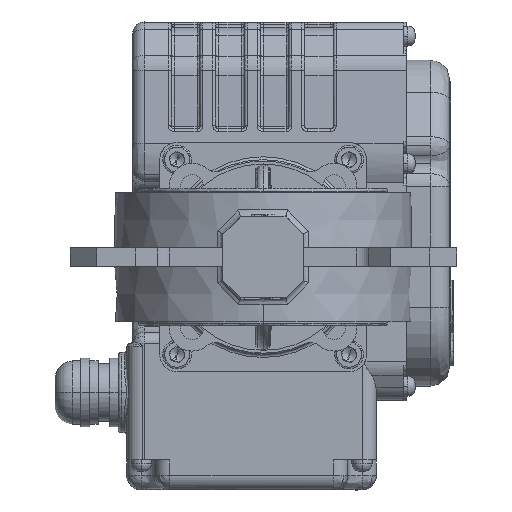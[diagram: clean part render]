
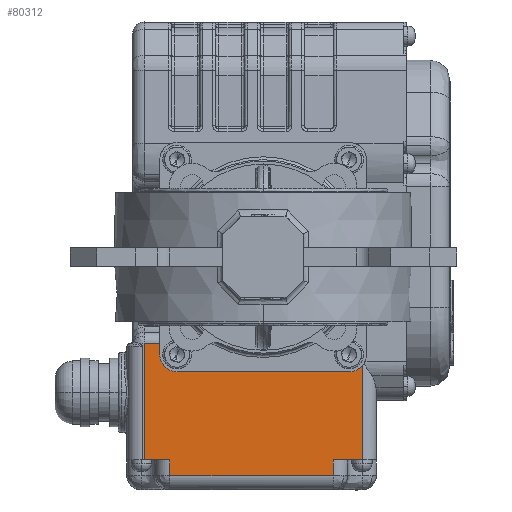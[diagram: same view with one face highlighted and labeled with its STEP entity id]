
A CAD part, front view. The second image highlights one B-rep face of the part: STEP entity #80312.
In plain terms, the highlighted planar face has unit normal (0, -1, 0).
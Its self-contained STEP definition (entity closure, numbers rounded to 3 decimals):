
#95 = EDGE_CURVE ( 'NONE', #11226, #43372, #18630, .T. ) ;
#1470 = DIRECTION ( 'NONE',  ( 0., 0., -1. ) ) ;
#2596 = CARTESIAN_POINT ( 'NONE',  ( -41.5, 193.5, -30.062 ) ) ;
#2698 = VECTOR ( 'NONE', #25830, 1000. ) ;
#3017 = VERTEX_POINT ( 'NONE', #35798 ) ;
#5108 = DIRECTION ( 'NONE',  ( 0., 0., 1. ) ) ;
#7254 = EDGE_CURVE ( 'NONE', #91211, #71942, #14022, .T. ) ;
#7509 = AXIS2_PLACEMENT_3D ( 'NONE', #84608, #68820, #77817 ) ;
#7967 = CARTESIAN_POINT ( 'NONE',  ( -30., 193.5, -40. ) ) ;
#9749 = CARTESIAN_POINT ( 'NONE',  ( 43., 193.5, -70.7 ) ) ;
#11226 = VERTEX_POINT ( 'NONE', #51688 ) ;
#11357 = ORIENTED_EDGE ( 'NONE', *, *, #106868, .T. ) ;
#11612 = EDGE_CURVE ( 'NONE', #94587, #56845, #60381, .T. ) ;
#14022 = LINE ( 'NONE', #65366, #33830 ) ;
#15612 = AXIS2_PLACEMENT_3D ( 'NONE', #18704, #33836, #43300 ) ;
#16410 = CARTESIAN_POINT ( 'NONE',  ( -36., 193.5, 34. ) ) ;
#18208 = DIRECTION ( 'NONE',  ( 0., 1., 0. ) ) ;
#18620 = ORIENTED_EDGE ( 'NONE', *, *, #83137, .T. ) ;
#18630 = LINE ( 'NONE', #16410, #98784 ) ;
#18698 = CARTESIAN_POINT ( 'NONE',  ( -41.5, 193.5, -70.7 ) ) ;
#18704 = CARTESIAN_POINT ( 'NONE',  ( 43., 193.5, 26. ) ) ;
#19038 = ORIENTED_EDGE ( 'NONE', *, *, #67205, .T. ) ;
#19123 = VECTOR ( 'NONE', #36040, 1000. ) ;
#22713 = CARTESIAN_POINT ( 'NONE',  ( -32.5, 193.5, 26. ) ) ;
#24496 = VECTOR ( 'NONE', #84430, 1000. ) ;
#25565 = CARTESIAN_POINT ( 'NONE',  ( 164.887, 193.5, -30.062 ) ) ;
#25830 = DIRECTION ( 'NONE',  ( 0., 0., 1. ) ) ;
#26456 = DIRECTION ( 'NONE',  ( 0., 0., -1. ) ) ;
#26685 = LINE ( 'NONE', #25565, #50548 ) ;
#27368 = CARTESIAN_POINT ( 'NONE',  ( -36., 193.5, -34. ) ) ;
#31547 = EDGE_CURVE ( 'NONE', #3017, #38330, #93372, .T. ) ;
#33830 = VECTOR ( 'NONE', #5108, 1000. ) ;
#33836 = DIRECTION ( 'NONE',  ( 0., -1., 0. ) ) ;
#33846 = CARTESIAN_POINT ( 'NONE',  ( 24.5, 193.5, -76.2 ) ) ;
#35798 = CARTESIAN_POINT ( 'NONE',  ( 34.5, 193.5, -70.7 ) ) ;
#36040 = DIRECTION ( 'NONE',  ( 1., 0., 0. ) ) ;
#36319 = ORIENTED_EDGE ( 'NONE', *, *, #103776, .T. ) ;
#36594 = LINE ( 'NONE', #60043, #82235 ) ;
#37484 = EDGE_CURVE ( 'NONE', #67215, #11226, #26685, .T. ) ;
#38330 = VERTEX_POINT ( 'NONE', #99146 ) ;
#38701 = CARTESIAN_POINT ( 'NONE',  ( -32.5, 193.5, -70.7 ) ) ;
#39073 = ORIENTED_EDGE ( 'NONE', *, *, #97688, .T. ) ;
#39801 = ORIENTED_EDGE ( 'NONE', *, *, #97891, .T. ) ;
#39812 = CARTESIAN_POINT ( 'NONE',  ( 43., 193.5, -70.7 ) ) ;
#41251 = CARTESIAN_POINT ( 'NONE',  ( 24.5, 193.5, -70.7 ) ) ;
#41420 = ORIENTED_EDGE ( 'NONE', *, *, #7254, .T. ) ;
#43300 = DIRECTION ( 'NONE',  ( 0., 0., -1. ) ) ;
#43372 = VERTEX_POINT ( 'NONE', #27368 ) ;
#45062 = ORIENTED_EDGE ( 'NONE', *, *, #37484, .F. ) ;
#46759 = CIRCLE ( 'NONE', #7509, 6. ) ;
#50548 = VECTOR ( 'NONE', #52387, 1000. ) ;
#51680 = PLANE ( 'NONE',  #15612 ) ;
#51688 = CARTESIAN_POINT ( 'NONE',  ( -36., 193.5, -30.062 ) ) ;
#52343 = ORIENTED_EDGE ( 'NONE', *, *, #31547, .T. ) ;
#52387 = DIRECTION ( 'NONE',  ( 1., 0., 0. ) ) ;
#54438 = ORIENTED_EDGE ( 'NONE', *, *, #11612, .T. ) ;
#56845 = VERTEX_POINT ( 'NONE', #7967 ) ;
#58179 = DIRECTION ( 'NONE',  ( -1., 0., 0. ) ) ;
#59132 = VECTOR ( 'NONE', #108337, 1000. ) ;
#60043 = CARTESIAN_POINT ( 'NONE',  ( 43., 193.5, -76.2 ) ) ;
#60381 = LINE ( 'NONE', #94032, #91081 ) ;
#60502 = ORIENTED_EDGE ( 'NONE', *, *, #61922, .F. ) ;
#61922 = EDGE_CURVE ( 'NONE', #84487, #67215, #78434, .T. ) ;
#63378 = CARTESIAN_POINT ( 'NONE',  ( -30., 193.5, -34. ) ) ;
#65094 = VERTEX_POINT ( 'NONE', #95574 ) ;
#65366 = CARTESIAN_POINT ( 'NONE',  ( 24.5, 193.5, 26. ) ) ;
#67205 = EDGE_CURVE ( 'NONE', #56845, #43372, #108666, .T. ) ;
#67215 = VERTEX_POINT ( 'NONE', #2596 ) ;
#67503 = AXIS2_PLACEMENT_3D ( 'NONE', #63378, #18208, #1470 ) ;
#68820 = DIRECTION ( 'NONE',  ( 0., 1., 0. ) ) ;
#69527 = LINE ( 'NONE', #9749, #19123 ) ;
#71708 = VECTOR ( 'NONE', #99750, 1000. ) ;
#71942 = VERTEX_POINT ( 'NONE', #41251 ) ;
#77817 = DIRECTION ( 'NONE',  ( 0., 0., -1. ) ) ;
#78434 = LINE ( 'NONE', #85193, #2698 ) ;
#80312 = ADVANCED_FACE ( 'NONE', ( #86433 ), #51680, .T. ) ;
#82235 = VECTOR ( 'NONE', #86949, 1000. ) ;
#83137 = EDGE_CURVE ( 'NONE', #65094, #91211, #36594, .T. ) ;
#84133 = ORIENTED_EDGE ( 'NONE', *, *, #95, .F. ) ;
#84430 = DIRECTION ( 'NONE',  ( 0., 0., 1. ) ) ;
#84487 = VERTEX_POINT ( 'NONE', #18698 ) ;
#84608 = CARTESIAN_POINT ( 'NONE',  ( 30., 193.5, -34. ) ) ;
#85193 = CARTESIAN_POINT ( 'NONE',  ( -41.5, 193.5, -252.483 ) ) ;
#86433 = FACE_OUTER_BOUND ( 'NONE', #88280, .T. ) ;
#86949 = DIRECTION ( 'NONE',  ( 1., 0., 0. ) ) ;
#88280 = EDGE_LOOP ( 'NONE', ( #18620, #41420, #39073, #52343, #39801, #54438, #19038, #84133, #45062, #60502, #36319, #11357 ) ) ;
#91081 = VECTOR ( 'NONE', #58179, 1000. ) ;
#91211 = VERTEX_POINT ( 'NONE', #33846 ) ;
#93372 = LINE ( 'NONE', #100118, #24496 ) ;
#94032 = CARTESIAN_POINT ( 'NONE',  ( 43., 193.5, -40. ) ) ;
#94587 = VERTEX_POINT ( 'NONE', #97334 ) ;
#95574 = CARTESIAN_POINT ( 'NONE',  ( -32.5, 193.5, -76.2 ) ) ;
#96308 = VERTEX_POINT ( 'NONE', #38701 ) ;
#97334 = CARTESIAN_POINT ( 'NONE',  ( 30., 193.5, -40. ) ) ;
#97688 = EDGE_CURVE ( 'NONE', #71942, #3017, #108135, .T. ) ;
#97891 = EDGE_CURVE ( 'NONE', #38330, #94587, #46759, .T. ) ;
#98784 = VECTOR ( 'NONE', #26456, 1000. ) ;
#99146 = CARTESIAN_POINT ( 'NONE',  ( 34.5, 193.5, -37.969 ) ) ;
#99415 = LINE ( 'NONE', #22713, #59132 ) ;
#99750 = DIRECTION ( 'NONE',  ( 1., 0., 0. ) ) ;
#100118 = CARTESIAN_POINT ( 'NONE',  ( 34.5, 193.5, 26. ) ) ;
#103776 = EDGE_CURVE ( 'NONE', #84487, #96308, #69527, .T. ) ;
#106868 = EDGE_CURVE ( 'NONE', #96308, #65094, #99415, .T. ) ;
#108135 = LINE ( 'NONE', #39812, #71708 ) ;
#108337 = DIRECTION ( 'NONE',  ( 0., 0., -1. ) ) ;
#108666 = CIRCLE ( 'NONE', #67503, 6. ) ;
